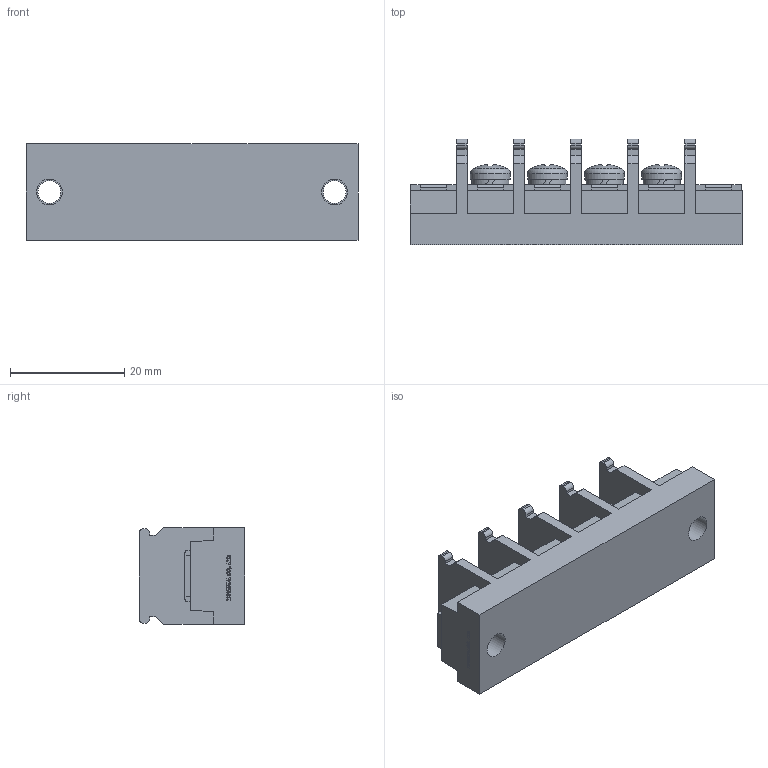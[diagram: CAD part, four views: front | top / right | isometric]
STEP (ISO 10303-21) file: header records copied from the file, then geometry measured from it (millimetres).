
FILE_DESCRIPTION(/* description */ ('Alibre Inc.'),/* implementation_level */ '2;1');
FILE_NAME(/* name */ 'export0',/* time_stamp */ '2015-10-14T19:46:36+09:00',/* author */ (''),/* organization */ (''),/* preprocessor_version */ 'ST-DEVELOPER v14',/* originating_system */ 'Alibre',/* authorisation */ '');
FILE_SCHEMA (('CONFIG_CONTROL_DESIGN'));
Length unit declared in the file: centimetre
Products named in the file (1): ID_1
Bounding box: 58.2 x 18.5 x 17 mm (x, y, z)
Volume: 10244.1 mm3; surface area: 6105 mm2
Topology: 1 solids, 17 shells, 692 faces, 1866 edges, 1240 vertices
Faces by surface type: plane 512, bspline 104, cylinder 48, cone 16, torus 8, sphere 4
Full cylindrical faces by diameter (mm): 4 x6, 4.5 x2, 6.5 x4, 7 x4
Entity records: 21014 total; most frequent: CARTESIAN_POINT 4807, ORIENTED_EDGE 3668, DIRECTION 2462, EDGE_CURVE 1834, VECTOR 1380, LINE 1380, VERTEX_POINT 1228, AXIS2_PLACEMENT_3D 791
